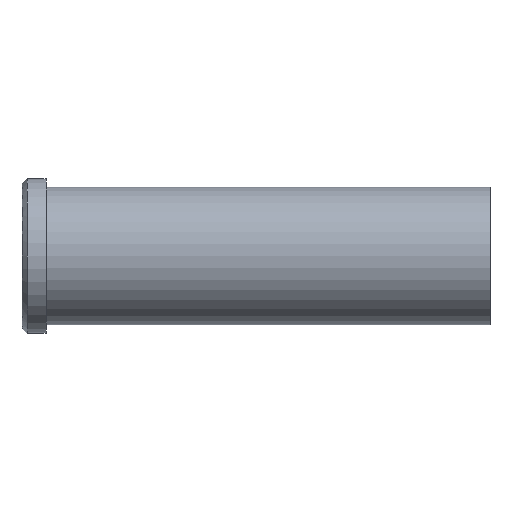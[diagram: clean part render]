
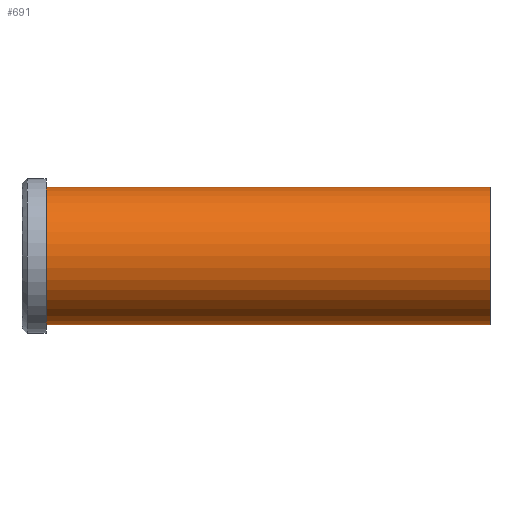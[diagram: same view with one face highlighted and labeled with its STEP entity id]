
A CAD part, front view. The second image highlights one B-rep face of the part: STEP entity #691.
In plain terms, the highlighted cylindrical face has radius 20 mm (diameter 40 mm), a partial arc.
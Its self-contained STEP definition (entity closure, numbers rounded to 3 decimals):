
#501=CARTESIAN_POINT('Vertex',(0.,0.,-20.)) ;
#506=CARTESIAN_POINT('Axis2P3D Location',(0.,0.,0.)) ;
#510=CARTESIAN_POINT('Vertex',(0.,-20.,0.)) ;
#513=CARTESIAN_POINT('Axis2P3D Location',(0.,0.,0.)) ;
#517=CARTESIAN_POINT('Vertex',(0.,0.,20.)) ;
#631=CARTESIAN_POINT('Line Origine',(129.,0.,20.)) ;
#635=CARTESIAN_POINT('Vertex',(129.,0.,20.)) ;
#649=CARTESIAN_POINT('Vertex',(129.,0.,-20.)) ;
#652=CARTESIAN_POINT('Line Origine',(129.,0.,-20.)) ;
#666=CARTESIAN_POINT('Axis2P3D Location',(129.,0.,0.)) ;
#671=CARTESIAN_POINT('Axis2P3D Location',(129.,0.,0.)) ;
#675=CARTESIAN_POINT('Vertex',(129.,-20.,0.)) ;
#678=CARTESIAN_POINT('Axis2P3D Location',(129.,0.,0.)) ;
#507=DIRECTION('Axis2P3D Direction',(1.,0.,-0.)) ;
#514=DIRECTION('Axis2P3D Direction',(1.,0.,-0.)) ;
#632=DIRECTION('Vector Direction',(-1.,0.,0.)) ;
#653=DIRECTION('Vector Direction',(-1.,0.,0.)) ;
#667=DIRECTION('Axis2P3D Direction',(-1.,-0.,-0.)) ;
#668=DIRECTION('Axis2P3D XDirection',(0.,0.,-1.)) ;
#672=DIRECTION('Axis2P3D Direction',(-1.,-0.,-0.)) ;
#679=DIRECTION('Axis2P3D Direction',(-1.,-0.,-0.)) ;
#508=AXIS2_PLACEMENT_3D('Circle Axis2P3D',#506,#507,$) ;
#515=AXIS2_PLACEMENT_3D('Circle Axis2P3D',#513,#514,$) ;
#669=AXIS2_PLACEMENT_3D('Cylinder Axis2P3D',#666,#667,#668) ;
#673=AXIS2_PLACEMENT_3D('Circle Axis2P3D',#671,#672,$) ;
#680=AXIS2_PLACEMENT_3D('Circle Axis2P3D',#678,#679,$) ;
#684=ORIENTED_EDGE('',*,*,#656,.T.) ;
#685=ORIENTED_EDGE('',*,*,#677,.F.) ;
#686=ORIENTED_EDGE('',*,*,#682,.F.) ;
#687=ORIENTED_EDGE('',*,*,#637,.T.) ;
#688=ORIENTED_EDGE('',*,*,#519,.T.) ;
#689=ORIENTED_EDGE('',*,*,#512,.T.) ;
#633=VECTOR('Line Direction',#632,1.) ;
#654=VECTOR('Line Direction',#653,1.) ;
#691=ADVANCED_FACE('353-32X136',(#690),#670,.T.) ;
#509=CIRCLE('generated circle',#508,20.) ;
#516=CIRCLE('generated circle',#515,20.) ;
#674=CIRCLE('generated circle',#673,20.) ;
#681=CIRCLE('generated circle',#680,20.) ;
#670=CYLINDRICAL_SURFACE('generated cylinder',#669,20.) ;
#512=EDGE_CURVE('',#511,#502,#509,.T.) ;
#519=EDGE_CURVE('',#518,#511,#516,.T.) ;
#637=EDGE_CURVE('',#636,#518,#634,.T.) ;
#656=EDGE_CURVE('',#502,#650,#655,.F.) ;
#677=EDGE_CURVE('',#676,#650,#674,.F.) ;
#682=EDGE_CURVE('',#636,#676,#681,.F.) ;
#683=EDGE_LOOP('',(#684,#685,#686,#687,#688,#689)) ;
#690=FACE_OUTER_BOUND('',#683,.T.) ;
#634=LINE('Line',#631,#633) ;
#655=LINE('Line',#652,#654) ;
#502=VERTEX_POINT('',#501) ;
#511=VERTEX_POINT('',#510) ;
#518=VERTEX_POINT('',#517) ;
#636=VERTEX_POINT('',#635) ;
#650=VERTEX_POINT('',#649) ;
#676=VERTEX_POINT('',#675) ;
